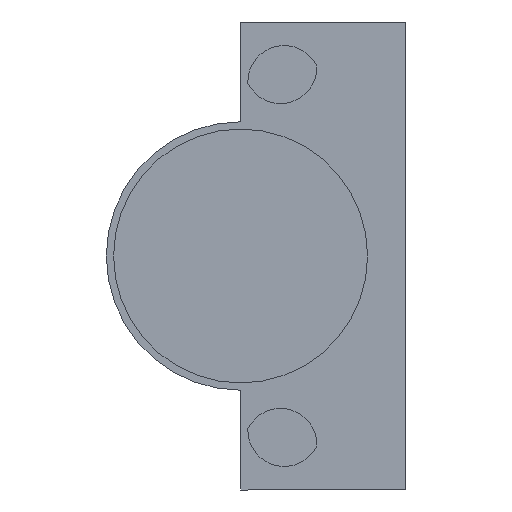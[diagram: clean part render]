
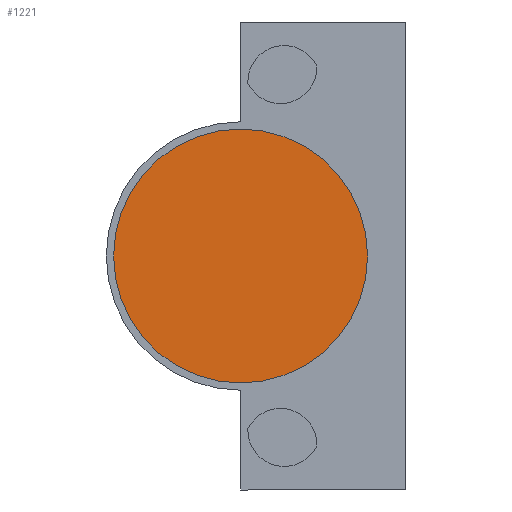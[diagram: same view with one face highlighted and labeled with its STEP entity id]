
A CAD part, front view. The second image highlights one B-rep face of the part: STEP entity #1221.
In plain terms, the highlighted planar face has unit normal (0, -1, 0).
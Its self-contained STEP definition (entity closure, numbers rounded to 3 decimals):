
#33 = AXIS2_PLACEMENT_3D ( 'NONE', #697, #1058, #703 ) ;
#144 = DIRECTION ( 'NONE',  ( 1., 0., 0. ) ) ;
#165 = CIRCLE ( 'NONE', #1039, 17.5 ) ;
#229 = VERTEX_POINT ( 'NONE', #956 ) ;
#271 = DIRECTION ( 'NONE',  ( 0., -1., 0. ) ) ;
#419 = EDGE_CURVE ( 'NONE', #852, #229, #165, .T. ) ;
#453 = EDGE_CURVE ( 'NONE', #229, #852, #1050, .T. ) ;
#635 = AXIS2_PLACEMENT_3D ( 'NONE', #761, #271, #144 ) ;
#642 = CARTESIAN_POINT ( 'NONE',  ( 5.5, -51.1, 0. ) ) ;
#697 = CARTESIAN_POINT ( 'NONE',  ( 5.5, -51.1, 0. ) ) ;
#703 = DIRECTION ( 'NONE',  ( 1., 0., 0. ) ) ;
#761 = CARTESIAN_POINT ( 'NONE',  ( 5.5, -51.1, 0. ) ) ;
#787 = EDGE_LOOP ( 'NONE', ( #1094, #1296 ) ) ;
#810 = FACE_OUTER_BOUND ( 'NONE', #787, .T. ) ;
#852 = VERTEX_POINT ( 'NONE', #1170 ) ;
#956 = CARTESIAN_POINT ( 'NONE',  ( -12., -51.1, 0. ) ) ;
#997 = DIRECTION ( 'NONE',  ( 0., -1., 0. ) ) ;
#1039 = AXIS2_PLACEMENT_3D ( 'NONE', #642, #997, #1473 ) ;
#1050 = CIRCLE ( 'NONE', #33, 17.5 ) ;
#1058 = DIRECTION ( 'NONE',  ( 0., -1., 0. ) ) ;
#1094 = ORIENTED_EDGE ( 'NONE', *, *, #453, .T. ) ;
#1170 = CARTESIAN_POINT ( 'NONE',  ( 23., -51.1, 0. ) ) ;
#1221 = ADVANCED_FACE ( 'NONE', ( #810 ), #1467, .T. ) ;
#1296 = ORIENTED_EDGE ( 'NONE', *, *, #419, .T. ) ;
#1467 = PLANE ( 'NONE',  #635 ) ;
#1473 = DIRECTION ( 'NONE',  ( 1., 0., 0. ) ) ;
